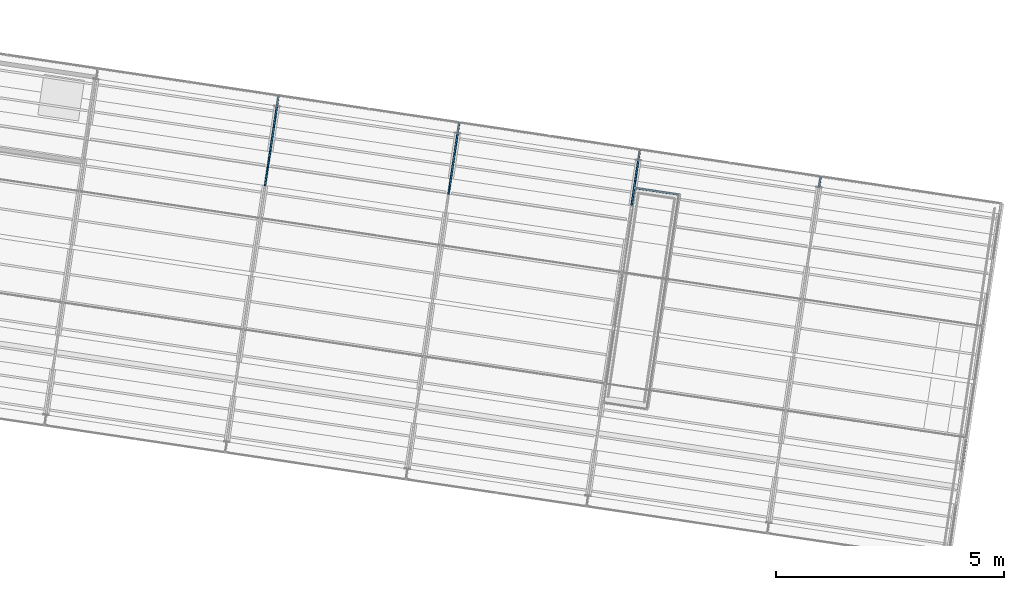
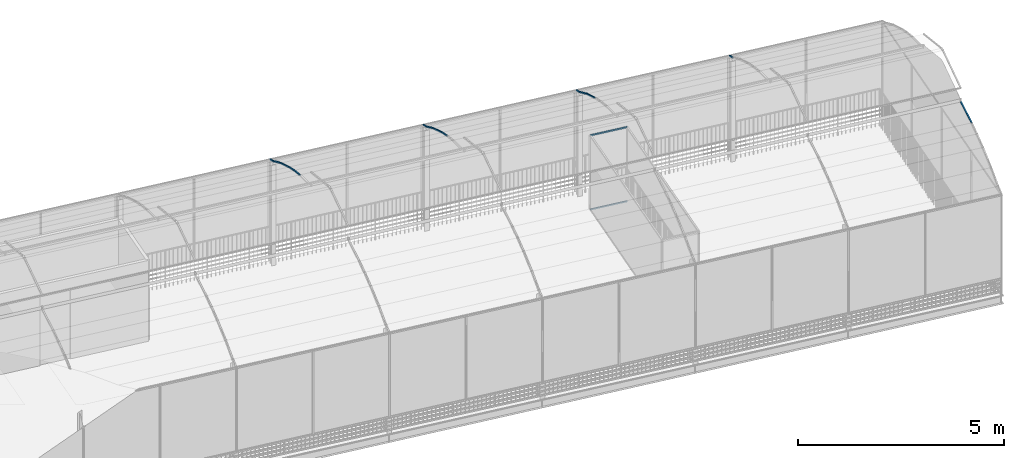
# One storey, part 23 of 34: 16 members, 1 element without a shape of its own.
"""IFC4 building model written with IfcOpenShell, lengths in metres."""

import ifcopenshell
import ifcopenshell.guid

model = None  # the IFC model being written
_history = None  # IfcOwnerHistory: only IFC2X3 demands one
_inside = {}  # id of a spatial element -> (the spatial element, [elements in it])
_under = {}  # id of a project, library or spatial element -> (it, [spatial elements below it])
_declared = {}  # id of a project -> (the project, [libraries it declares])
_typed = {}  # id of a type object -> (the type object, [elements of that type])
_made_of = {}  # id of a material, layer set ... -> (it, [elements and type objects made of it])


def new_model(schema):
    """Start an empty IFC model of exactly this schema.

    Asked for "IFC4X3", IfcOpenShell would pick the latest addendum, in which some entities
    have other attributes; the version numbers below select the first issue.
    IFC2X3 requires an IfcOwnerHistory on every rooted entity: one is made here for all.
    """
    global model, _history
    if schema == "IFC4X3":
        model = ifcopenshell.file(schema_version=(4, 3, 0, 0))
    else:
        model = ifcopenshell.file(schema=schema)
    _inside.clear()
    _under.clear()
    _declared.clear()
    _typed.clear()
    _made_of.clear()
    _history = None
    if model.schema == "IFC2X3":
        org = make("IfcOrganization", Name="unknown")
        user = make(
            "IfcPersonAndOrganization",
            ThePerson=make("IfcPerson", FamilyName="unknown"),
            TheOrganization=org,
        )
        app = make(
            "IfcApplication",
            ApplicationDeveloper=org,
            Version="unknown",
            ApplicationFullName="unknown",
            ApplicationIdentifier="unknown",
        )
        _history = make(
            "IfcOwnerHistory",
            OwningUser=user,
            OwningApplication=app,
            ChangeAction="ADDED",
            CreationDate=0,
        )
    return model


def make(cls, **values):
    """One entity of the class cls with the attributes given. An attribute that is None is left unset."""
    return model.create_entity(
        cls, **{name: value for name, value in values.items() if value is not None}
    )


def rooted(cls, **values):
    """An entity with a GlobalId (a new one), such as an element, a storey or a relation."""
    return make(cls, GlobalId=ifcopenshell.guid.new(), OwnerHistory=_history, **values)


def si_unit(unit_type, name, prefix=None):
    """IfcSIUnit, for example si_unit("LENGTHUNIT", "METRE", prefix="MILLI")."""
    return make("IfcSIUnit", UnitType=unit_type, Prefix=prefix, Name=name)


def assignment(units):
    """IfcUnitAssignment: the units of a project."""
    return None if units is None else make("IfcUnitAssignment", Units=units)


def point(xyz):
    """IfcCartesianPoint."""
    return None if xyz is None else make("IfcCartesianPoint", Coordinates=xyz)


def direction(xyz):
    """IfcDirection."""
    return None if xyz is None else make("IfcDirection", DirectionRatios=xyz)


def frame(location, z_axis=None, x_axis=None):
    """IfcAxis2Placement3D, a coordinate frame: its origin and axes. An axis left out is left unset."""
    return make(
        "IfcAxis2Placement3D",
        Location=point(location),
        Axis=direction(z_axis),
        RefDirection=direction(x_axis),
    )


def origin_with_axes():
    """The frame at (0, 0, 0) with the z axis (0, 0, 1) and the x axis (1, 0, 0) written out."""
    return frame((0.0, 0.0, 0.0), z_axis=(0.0, 0.0, 1.0), x_axis=(1.0, 0.0, 0.0))


def place(relative_to, where):
    """IfcLocalPlacement: puts the frame where relative to a parent placement (None: the world)."""
    return make(
        "IfcLocalPlacement", PlacementRelTo=relative_to, RelativePlacement=where
    )


def context(
    kind, dimensions, precision=None, world=None, true_north=None, identifier=None
):
    """IfcGeometricRepresentationContext, for example the 3D "Model" context."""
    return make(
        "IfcGeometricRepresentationContext",
        ContextIdentifier=identifier,
        ContextType=kind,
        CoordinateSpaceDimension=dimensions,
        Precision=precision,
        WorldCoordinateSystem=world,
        TrueNorth=true_north,
    )


def subcontext(parent, identifier, kind, view, scale=None):
    """IfcGeometricRepresentationSubContext, for example "Body" below "Model"."""
    return make(
        "IfcGeometricRepresentationSubContext",
        ContextIdentifier=identifier,
        ContextType=kind,
        ParentContext=parent,
        TargetScale=scale,
        TargetView=view,
    )


def project(units=None, contexts=None):
    """IfcProject with its units and contexts."""
    return rooted(
        "IfcProject",
        Name="project",
        RepresentationContexts=contexts,
        UnitsInContext=assignment(units),
    )


def spatial(cls, under=None, at=None, **own):
    """A site, building, storey or space (cls), placed at a placement, below another one or the project."""
    s = rooted(cls, ObjectPlacement=at, **own)
    if under is not None:
        _under.setdefault(under.id(), (under, []))[1].append(s)
    return s


def profile(cls, at=None, kind="AREA", **sizes):
    """A parametric profile (cls). Its sizes go by their IFC names, for example OverallWidth=200.0."""
    return make(cls, ProfileType=kind, Position=at, **sizes)


def rectangle(**sizes):
    """IfcRectangleProfileDef."""
    return profile("IfcRectangleProfileDef", **sizes)


def extrude(swept, where, along, depth):
    """IfcExtrudedAreaSolid: the profile swept, set in the frame where, extruded along a direction by depth."""
    return make(
        "IfcExtrudedAreaSolid",
        SweptArea=swept,
        Position=where,
        ExtrudedDirection=direction(along),
        Depth=depth,
    )


def shape(context_of_items, identifier, shape_type, items):
    """IfcShapeRepresentation: the items that make up one representation, for example the "Body"."""
    return make(
        "IfcShapeRepresentation",
        ContextOfItems=context_of_items,
        RepresentationIdentifier=identifier,
        RepresentationType=shape_type,
        Items=items,
    )


def material(Name=None, Category=None):
    """IfcMaterial."""
    return make("IfcMaterial", Name=Name, Category=Category)


def material_profile(
    of_material, cross_section, Name=None, Category=None, Priority=None
):
    """IfcMaterialProfile: a cross section and its material."""
    return make(
        "IfcMaterialProfile",
        Name=Name,
        Material=of_material,
        Profile=cross_section,
        Priority=Priority,
        Category=Category,
    )


def profile_set(profiles, Name=None, composite=None):
    """IfcMaterialProfileSet."""
    return make(
        "IfcMaterialProfileSet",
        Name=Name,
        MaterialProfiles=profiles,
        CompositeProfile=composite,
    )


def profile_usage(for_profile_set, cardinal=None, extent=None):
    """IfcMaterialProfileSetUsage: how a profile set lies along its element."""
    return make(
        "IfcMaterialProfileSetUsage",
        ForProfileSet=for_profile_set,
        CardinalPoint=cardinal,
        ReferenceExtent=extent,
    )


def made_of(thing, what):
    """Note that an element or type object is made of a material, layer set ...; save() writes the relation."""
    if what is not None:
        _made_of.setdefault(what.id(), (what, []))[1].append(thing)
    return thing


def type_object(cls, material=None, **own):
    """A type object (cls), such as IfcWallType, which elements share."""
    return made_of(rooted(cls, **own), material)


def element(
    cls,
    number,
    at=None,
    inside=None,
    cuts=None,
    type_object=None,
    material=None,
    context=None,
    identifier="Body",
    shape_type=None,
    held_by="IfcProductDefinitionShape",
    body=None,
    shapes=None,
    **own,
):
    """One element of the class cls, such as IfcWall. Its Tag is "e" and its number.

    at: its placement. inside: the storey or other place that contains it. cuts: it is an
    opening in that element (IfcRelVoidsElement). A single representation is given by context,
    identifier, shape_type and body (its items); several are given by shapes. held_by: the class
    of the entity that holds the representations. save() writes the other relations.
    """
    e = rooted(cls, Tag="e%d" % number, ObjectPlacement=at, **own)
    if body is not None:
        shapes = [shape(context, identifier, shape_type, body)]
    if shapes is not None:
        e.Representation = make(held_by, Representations=shapes)
    if inside is not None:
        _inside.setdefault(inside.id(), (inside, []))[1].append(e)
    if cuts is not None:
        rooted(
            "IfcRelVoidsElement", RelatingBuildingElement=cuts, RelatedOpeningElement=e
        )
    if type_object is not None:
        _typed.setdefault(type_object.id(), (type_object, []))[1].append(e)
    return made_of(e, material)


def aggregate(whole, parts):
    """IfcRelAggregates: a whole, such as a stair, and the parts it consists of."""
    return rooted("IfcRelAggregates", RelatingObject=whole, RelatedObjects=parts)


def save(model, path):
    """Write the relations noted so far, then the file.

    IfcRelAggregates (storeys below a building ...), IfcRelContainedInSpatialStructure (elements
    in a storey), IfcRelDefinesByType, IfcRelAssociatesMaterial and IfcRelDeclares: one each for
    every whole, place, type object, material and project.
    """
    for whole, parts in _under.values():
        aggregate(whole, parts)
    for where, things in _inside.values():
        rooted(
            "IfcRelContainedInSpatialStructure",
            RelatedElements=things,
            RelatingStructure=where,
        )
    for kind, things in _typed.values():
        rooted("IfcRelDefinesByType", RelatedObjects=things, RelatingType=kind)
    for what, things in _made_of.values():
        rooted("IfcRelAssociatesMaterial", RelatedObjects=things, RelatingMaterial=what)
    for by, libraries in _declared.values():
        rooted("IfcRelDeclares", RelatingContext=by, RelatedDefinitions=libraries)
    model.write(path)


model = new_model("IFC4")

# Units and contexts
model_context = context("Model", 3, precision=1e-05, world=origin_with_axes(), true_north=direction((0.0, 1.0)))
body_context = subcontext(model_context, "Body", "Model", "MODEL_VIEW")
ifc_project = project(units=[si_unit("LENGTHUNIT", "METRE"), si_unit("AREAUNIT", "SQUARE_METRE"), si_unit("VOLUMEUNIT", "CUBIC_METRE")], contexts=[model_context])

# Site, building, storey
site_placement = place(None, origin_with_axes())
site = spatial("IfcSite", under=ifc_project, at=site_placement, Name="Lares · Rua das Mercês · artigo 4771")
building_placement = place(site_placement, frame((15.0, 9.7, 14.65), z_axis=(0.0, 0.0, 1.0), x_axis=(0.989015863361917, -0.147809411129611, 0.0)))
building = spatial("IfcBuilding", under=site, at=building_placement, Name="Casa Sobreposta")
storey_placement = place(building_placement, frame((0.0, 0.0, 3.24), z_axis=(0.0, 0.0, 1.0), x_axis=(1.0, 0.0, 0.0)))
storey = spatial("IfcBuildingStorey", under=building, at=storey_placement, Name="01 · Jardim de inverno", Elevation=17.89)

# Roof, members
ifc_material_1 = material(Name="Vidro / Normalglas", Category="glass")
roof_placement = place(storey_placement, frame((0.0, 0.0, -3.24), z_axis=(0.0, 0.0, 1.0), x_axis=(1.0, 0.0, 0.0)))
roof = element("IfcRoof", 1, at=roof_placement, inside=storey, material=ifc_material_1, Name="Cobertura translúcida da estufa", PredefinedType="BARREL_ROOF")
ifc_material_2 = material(Name="Aço pintado / Stahl lackiert", Category="steel")
ifc_material_profile = material_profile(ifc_material_2, rectangle(XDim=0.035, YDim=0.035))
ifc_profile_set = profile_set([ifc_material_profile], Name="R0.035")
ifc_profile_usage_1 = profile_usage(ifc_profile_set)
member_type = type_object("IfcMemberType", Name="R0.035 / steel", PredefinedType="NOTDEFINED", material=ifc_profile_set)
member_1_placement = place(roof_placement, frame((32.0, 0.493171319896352, 7.05943931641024), z_axis=(0.0, 0.977995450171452, 0.208626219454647), x_axis=(1.0, 0.0, 0.0)))
member_1 = element("IfcMember", 2, at=member_1_placement, type_object=member_type, material=ifc_profile_usage_1, Name="Arco estufa 32/5", context=body_context, shape_type="SweptSolid", body=[
    extrude(rectangle(XDim=0.035, YDim=0.035), origin_with_axes(), (0.0, 0.0, 1.0), 0.737465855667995),
])
ifc_profile_usage_2 = profile_usage(ifc_profile_set)
member_2_placement = place(roof_placement, frame((16.0, 4.40690649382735, 7.05944154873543), z_axis=(0.0, 0.958508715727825, -0.285063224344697), x_axis=(1.0, 0.0, 0.0)))
member_2 = element("IfcMember", 3, at=member_2_placement, type_object=member_type, material=ifc_profile_usage_2, Name="Arco estufa 16/12", context=body_context, shape_type="SweptSolid", body=[
    extrude(rectangle(XDim=0.035, YDim=0.035), origin_with_axes(), (0.0, 0.0, 1.0), 0.426177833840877),
])
ifc_profile_usage_3 = profile_usage(ifc_profile_set)
member_3_placement = place(roof_placement, frame((16.0, 4.81540166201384, 6.93795392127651), z_axis=(0.0, 0.941396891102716, -0.337300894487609), x_axis=(1.0, 0.0, 0.0)))
member_3 = element("IfcMember", 4, at=member_3_placement, type_object=member_type, material=ifc_profile_usage_3, Name="Arco estufa 16/13", context=body_context, shape_type="SweptSolid", body=[
    extrude(rectangle(XDim=0.035, YDim=0.035), origin_with_axes(), (0.0, 0.0, 1.0), 0.362337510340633),
])
ifc_profile_usage_4 = profile_usage(ifc_profile_set)
member_4_placement = place(roof_placement, frame((20.0, 4.81540166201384, 6.93795392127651), z_axis=(0.0, 0.941396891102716, -0.337300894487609), x_axis=(1.0, 0.0, 0.0)))
member_4 = element("IfcMember", 5, at=member_4_placement, type_object=member_type, material=ifc_profile_usage_4, Name="Arco estufa 20/13", context=body_context, shape_type="SweptSolid", body=[
    extrude(rectangle(XDim=0.035, YDim=0.035), origin_with_axes(), (0.0, 0.0, 1.0), 0.362337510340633),
])
ifc_profile_usage_5 = profile_usage(ifc_profile_set)
member_5_placement = place(roof_placement, frame((16.0, 5.15650506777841, 6.8157371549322), z_axis=(0.0, 0.915895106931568, -0.401417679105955), x_axis=(1.0, 0.0, 0.0)))
member_5 = element("IfcMember", 6, at=member_5_placement, type_object=member_type, material=ifc_profile_usage_5, Name="Arco estufa 16/14", context=body_context, shape_type="SweptSolid", body=[
    extrude(rectangle(XDim=0.035, YDim=0.035), origin_with_axes(), (0.0, 0.0, 1.0), 0.596721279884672),
])
ifc_profile_usage_6 = profile_usage(ifc_profile_set)
member_6_placement = place(roof_placement, frame((20.0, 5.15650506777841, 6.8157371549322), z_axis=(0.0, 0.915895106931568, -0.401417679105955), x_axis=(1.0, 0.0, 0.0)))
member_6 = element("IfcMember", 7, at=member_6_placement, type_object=member_type, material=ifc_profile_usage_6, Name="Arco estufa 20/14", context=body_context, shape_type="SweptSolid", body=[
    extrude(rectangle(XDim=0.035, YDim=0.035), origin_with_axes(), (0.0, 0.0, 1.0), 0.596721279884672),
])
ifc_profile_usage_7 = profile_usage(ifc_profile_set)
member_7_placement = place(roof_placement, frame((24.0, 5.15650506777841, 6.8157371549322), z_axis=(0.0, 0.915895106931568, -0.401417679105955), x_axis=(1.0, 0.0, 0.0)))
member_7 = element("IfcMember", 8, at=member_7_placement, type_object=member_type, material=ifc_profile_usage_7, Name="Arco estufa 24/14", context=body_context, shape_type="SweptSolid", body=[
    extrude(rectangle(XDim=0.035, YDim=0.035), origin_with_axes(), (0.0, 0.0, 1.0), 0.596721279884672),
])
ifc_profile_usage_8 = profile_usage(ifc_profile_set)
member_8_placement = place(roof_placement, frame((16.0, 5.70303916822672, 6.57620268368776), z_axis=(0.0, 0.878867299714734, -0.477066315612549), x_axis=(1.0, 0.0, 0.0)))
member_8 = element("IfcMember", 9, at=member_8_placement, type_object=member_type, material=ifc_profile_usage_8, Name="Arco estufa 16/15", context=body_context, shape_type="SweptSolid", body=[
    extrude(rectangle(XDim=0.035, YDim=0.035), origin_with_axes(), (0.0, 0.0, 1.0), 0.52859183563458),
])
ifc_profile_usage_9 = profile_usage(ifc_profile_set)
member_9_placement = place(roof_placement, frame((20.0, 5.70303916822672, 6.57620268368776), z_axis=(0.0, 0.878867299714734, -0.477066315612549), x_axis=(1.0, 0.0, 0.0)))
member_9 = element("IfcMember", 10, at=member_9_placement, type_object=member_type, material=ifc_profile_usage_9, Name="Arco estufa 20/15", context=body_context, shape_type="SweptSolid", body=[
    extrude(rectangle(XDim=0.035, YDim=0.035), origin_with_axes(), (0.0, 0.0, 1.0), 0.52859183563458),
])
ifc_profile_usage_10 = profile_usage(ifc_profile_set)
member_10_placement = place(roof_placement, frame((24.0, 5.70303916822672, 6.57620268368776), z_axis=(0.0, 0.878867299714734, -0.477066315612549), x_axis=(1.0, 0.0, 0.0)))
member_10 = element("IfcMember", 11, at=member_10_placement, type_object=member_type, material=ifc_profile_usage_10, Name="Arco estufa 24/15", context=body_context, shape_type="SweptSolid", body=[
    extrude(rectangle(XDim=0.035, YDim=0.035), origin_with_axes(), (0.0, 0.0, 1.0), 0.52859183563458),
])
ifc_profile_usage_11 = profile_usage(ifc_profile_set)
member_11_placement = place(roof_placement, frame((16.0, 6.16760124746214, 6.3240293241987), z_axis=(0.0, 0.932880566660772, -0.360185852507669), x_axis=(1.0, 0.0, 0.0)))
member_11 = element("IfcMember", 12, at=member_11_placement, type_object=member_type, material=ifc_profile_usage_11, Name="Arco estufa 16/16", context=body_context, shape_type="SweptSolid", body=[
    extrude(rectangle(XDim=0.035, YDim=0.035), origin_with_axes(), (0.0, 0.0, 1.0), 0.249119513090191),
])
ifc_profile_usage_12 = profile_usage(ifc_profile_set)
member_12_placement = place(roof_placement, frame((20.0, 6.16760124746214, 6.3240293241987), z_axis=(0.0, 0.932880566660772, -0.360185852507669), x_axis=(1.0, 0.0, 0.0)))
member_12 = element("IfcMember", 13, at=member_12_placement, type_object=member_type, material=ifc_profile_usage_12, Name="Arco estufa 20/16", context=body_context, shape_type="SweptSolid", body=[
    extrude(rectangle(XDim=0.035, YDim=0.035), origin_with_axes(), (0.0, 0.0, 1.0), 0.249119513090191),
])
ifc_profile_usage_13 = profile_usage(ifc_profile_set)
member_13_placement = place(roof_placement, frame((24.0, 6.16760124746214, 6.3240293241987), z_axis=(0.0, 0.932880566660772, -0.360185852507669), x_axis=(1.0, 0.0, 0.0)))
member_13 = element("IfcMember", 14, at=member_13_placement, type_object=member_type, material=ifc_profile_usage_13, Name="Arco estufa 24/16", context=body_context, shape_type="SweptSolid", body=[
    extrude(rectangle(XDim=0.035, YDim=0.035), origin_with_axes(), (0.0, 0.0, 1.0), 0.249119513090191),
])
ifc_profile_usage_14 = profile_usage(ifc_profile_set)
member_14_placement = place(roof_placement, frame((28.0, 6.16760124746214, 6.3240293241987), z_axis=(0.0, 0.932880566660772, -0.360185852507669), x_axis=(1.0, 0.0, 0.0)))
member_14 = element("IfcMember", 15, at=member_14_placement, type_object=member_type, material=ifc_profile_usage_14, Name="Arco estufa 28/16", context=body_context, shape_type="SweptSolid", body=[
    extrude(rectangle(XDim=0.035, YDim=0.035), origin_with_axes(), (0.0, 0.0, 1.0), 0.249119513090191),
])
aggregate(roof, [member_1, member_2, member_3, member_4, member_5, member_6, member_7, member_8, member_9, member_10, member_11, member_12, member_13, member_14])

# Members
ifc_profile_usage_15 = profile_usage(ifc_profile_set)
member_15_placement = place(storey_placement, frame((24.03, 5.55, 0.0), z_axis=(1.0, 0.0, 0.0), x_axis=(0.0, -1.0, 0.0)))
element("IfcMember", 16, at=member_15_placement, inside=storey, type_object=member_type, material=ifc_profile_usage_15, Name="Caixa térmica 2 · north · travessa", context=body_context, shape_type="SweptSolid", body=[
    extrude(rectangle(XDim=0.035, YDim=0.035), origin_with_axes(), (0.0, 0.0, 1.0), 0.960000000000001),
])
ifc_profile_usage_16 = profile_usage(ifc_profile_set)
member_16_placement = place(storey_placement, frame((24.03, 5.55, 2.2), z_axis=(1.0, 0.0, 0.0), x_axis=(0.0, -1.0, 0.0)))
element("IfcMember", 17, at=member_16_placement, inside=storey, type_object=member_type, material=ifc_profile_usage_16, Name="Caixa térmica 2 · north · travessa", context=body_context, shape_type="SweptSolid", body=[
    extrude(rectangle(XDim=0.035, YDim=0.035), origin_with_axes(), (0.0, 0.0, 1.0), 0.960000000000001),
])

save(model, "model.ifc")
